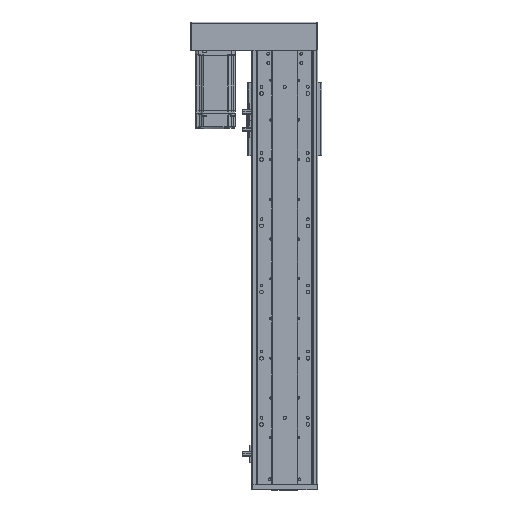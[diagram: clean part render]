
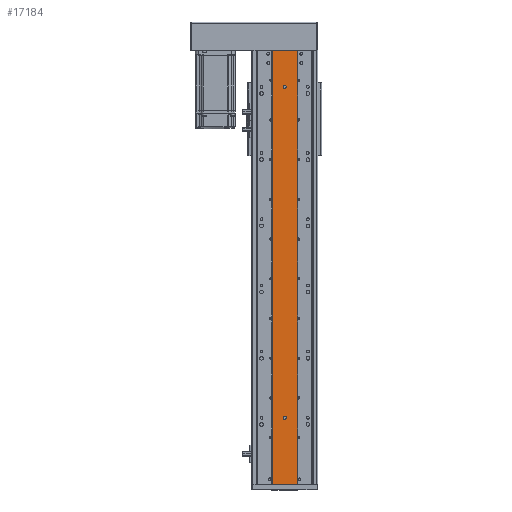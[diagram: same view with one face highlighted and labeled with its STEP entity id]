
A CAD part, top view. The second image highlights one B-rep face of the part: STEP entity #17184.
In plain terms, the highlighted planar face has unit normal (0, 0, 1).
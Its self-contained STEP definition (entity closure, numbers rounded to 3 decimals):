
#5488 = AXIS2_PLACEMENT_3D ( 'NONE', #8111, #8075, #8110 ) ;
#6199 = FACE_BOUND ( 'NONE', #18677, .T. ) ;
#6206 = FACE_BOUND ( 'NONE', #18656, .T. ) ;
#6230 = FACE_OUTER_BOUND ( 'NONE', #18717, .T. ) ;
#6738 = VERTEX_POINT ( 'NONE', #44262 ) ;
#8075 = DIRECTION ( 'NONE',  ( 0., 0., -1. ) ) ;
#8097 = PLANE ( 'NONE',  #5488 ) ;
#8110 = DIRECTION ( 'NONE',  ( -1., 0., 0. ) ) ;
#8111 = CARTESIAN_POINT ( 'NONE',  ( -10645.079, 656., -17040.86 ) ) ;
#10602 = CARTESIAN_POINT ( 'NONE',  ( -10628.579, 101., -17040.86 ) ) ;
#10657 = CARTESIAN_POINT ( 'NONE',  ( -10623.579, 101., -17040.86 ) ) ;
#10679 = CARTESIAN_POINT ( 'NONE',  ( -10623.579, 601., -17040.86 ) ) ;
#12251 = DIRECTION ( 'NONE',  ( 0., 0., -1. ) ) ;
#12252 = CARTESIAN_POINT ( 'NONE',  ( -10626.079, 601., -17040.86 ) ) ;
#12254 = CARTESIAN_POINT ( 'NONE',  ( -10626.079, 101., -17040.86 ) ) ;
#12268 = DIRECTION ( 'NONE',  ( 0., 0., -1. ) ) ;
#12282 = DIRECTION ( 'NONE',  ( -1., 0., 0. ) ) ;
#12283 = DIRECTION ( 'NONE',  ( -1., 0., 0. ) ) ;
#12534 = CARTESIAN_POINT ( 'NONE',  ( -10645.079, 0., -17040.86 ) ) ;
#12615 = CARTESIAN_POINT ( 'NONE',  ( -10607.079, 0., -17040.86 ) ) ;
#12646 = CARTESIAN_POINT ( 'NONE',  ( -10645.079, 656., -17040.86 ) ) ;
#12650 = CARTESIAN_POINT ( 'NONE',  ( -10607.079, 656., -17040.86 ) ) ;
#15567 = AXIS2_PLACEMENT_3D ( 'NONE', #31847, #31840, #31845 ) ;
#15592 = AXIS2_PLACEMENT_3D ( 'NONE', #31830, #31834, #31835 ) ;
#16523 = AXIS2_PLACEMENT_3D ( 'NONE', #12254, #12268, #12283 ) ;
#16529 = AXIS2_PLACEMENT_3D ( 'NONE', #12252, #12251, #12282 ) ;
#17184 = ADVANCED_FACE ( 'NONE', ( #6206, #6199, #6230 ), #8097, .F. ) ;
#18656 = EDGE_LOOP ( 'NONE', ( #27327, #27314 ) ) ;
#18677 = EDGE_LOOP ( 'NONE', ( #27337, #27339 ) ) ;
#18717 = EDGE_LOOP ( 'NONE', ( #27319, #27288, #27299, #27322 ) ) ;
#27288 = ORIENTED_EDGE ( 'NONE', *, *, #40879, .F. ) ;
#27299 = ORIENTED_EDGE ( 'NONE', *, *, #40778, .F. ) ;
#27314 = ORIENTED_EDGE ( 'NONE', *, *, #40649, .T. ) ;
#27319 = ORIENTED_EDGE ( 'NONE', *, *, #40783, .T. ) ;
#27322 = ORIENTED_EDGE ( 'NONE', *, *, #40817, .T. ) ;
#27327 = ORIENTED_EDGE ( 'NONE', *, *, #37922, .T. ) ;
#27337 = ORIENTED_EDGE ( 'NONE', *, *, #37919, .T. ) ;
#27339 = ORIENTED_EDGE ( 'NONE', *, *, #40651, .T. ) ;
#27740 = CARTESIAN_POINT ( 'NONE',  ( -10645.079, 656., -17040.86 ) ) ;
#27747 = DIRECTION ( 'NONE',  ( 1., 0., 0. ) ) ;
#27773 = DIRECTION ( 'NONE',  ( 1., 0., 0. ) ) ;
#27796 = CARTESIAN_POINT ( 'NONE',  ( -10645.079, 0., -17040.86 ) ) ;
#27880 = DIRECTION ( 'NONE',  ( 0., -1., 0. ) ) ;
#27895 = CARTESIAN_POINT ( 'NONE',  ( -10645.079, 656., -17040.86 ) ) ;
#28042 = CARTESIAN_POINT ( 'NONE',  ( -10607.079, 656., -17040.86 ) ) ;
#28067 = DIRECTION ( 'NONE',  ( 0., -1., 0. ) ) ;
#31830 = CARTESIAN_POINT ( 'NONE',  ( -10626.079, 101., -17040.86 ) ) ;
#31834 = DIRECTION ( 'NONE',  ( 0., 0., -1. ) ) ;
#31835 = DIRECTION ( 'NONE',  ( -1., 0., 0. ) ) ;
#31840 = DIRECTION ( 'NONE',  ( 0., 0., -1. ) ) ;
#31845 = DIRECTION ( 'NONE',  ( -1., 0., 0. ) ) ;
#31847 = CARTESIAN_POINT ( 'NONE',  ( -10626.079, 601., -17040.86 ) ) ;
#32930 = CIRCLE ( 'NONE', #15567, 2.5 ) ;
#32994 = CIRCLE ( 'NONE', #15592, 2.5 ) ;
#34545 = CIRCLE ( 'NONE', #16529, 2.5 ) ;
#34562 = CIRCLE ( 'NONE', #16523, 2.5 ) ;
#34715 = VECTOR ( 'NONE', #27747, 1000. ) ;
#34738 = LINE ( 'NONE', #27740, #34715 ) ;
#34773 = LINE ( 'NONE', #27796, #34814 ) ;
#34795 = LINE ( 'NONE', #27895, #34800 ) ;
#34800 = VECTOR ( 'NONE', #27880, 1000. ) ;
#34814 = VECTOR ( 'NONE', #27773, 1000. ) ;
#34899 = LINE ( 'NONE', #28042, #34900 ) ;
#34900 = VECTOR ( 'NONE', #28067, 1000. ) ;
#37919 = EDGE_CURVE ( 'NONE', #45764, #45762, #32994, .T. ) ;
#37922 = EDGE_CURVE ( 'NONE', #45809, #6738, #32930, .T. ) ;
#40649 = EDGE_CURVE ( 'NONE', #6738, #45809, #34545, .T. ) ;
#40651 = EDGE_CURVE ( 'NONE', #45762, #45764, #34562, .T. ) ;
#40778 = EDGE_CURVE ( 'NONE', #46258, #46279, #34738, .T. ) ;
#40783 = EDGE_CURVE ( 'NONE', #46207, #46254, #34773, .T. ) ;
#40817 = EDGE_CURVE ( 'NONE', #46258, #46207, #34795, .T. ) ;
#40879 = EDGE_CURVE ( 'NONE', #46279, #46254, #34899, .T. ) ;
#44262 = CARTESIAN_POINT ( 'NONE',  ( -10628.579, 601., -17040.86 ) ) ;
#45762 = VERTEX_POINT ( 'NONE', #10602 ) ;
#45764 = VERTEX_POINT ( 'NONE', #10657 ) ;
#45809 = VERTEX_POINT ( 'NONE', #10679 ) ;
#46207 = VERTEX_POINT ( 'NONE', #12534 ) ;
#46254 = VERTEX_POINT ( 'NONE', #12615 ) ;
#46258 = VERTEX_POINT ( 'NONE', #12646 ) ;
#46279 = VERTEX_POINT ( 'NONE', #12650 ) ;
